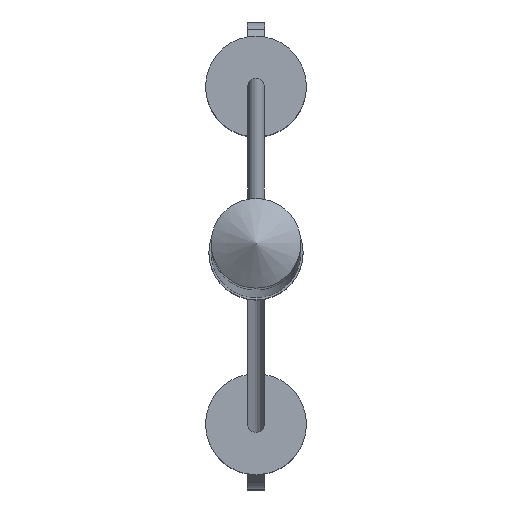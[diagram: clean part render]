
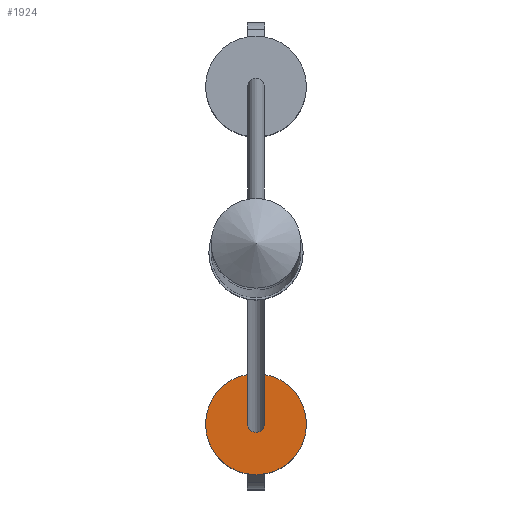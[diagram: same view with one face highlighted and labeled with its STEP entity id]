
A CAD part, top view. The second image highlights one B-rep face of the part: STEP entity #1924.
In plain terms, the highlighted planar face has unit normal (0, 0, 1).
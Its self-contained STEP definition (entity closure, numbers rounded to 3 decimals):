
#10 = AXIS2_PLACEMENT_3D ( 'NONE', #360, #241, #1871 ) ;
#45 = DIRECTION ( 'NONE',  ( -1., 0., 0. ) ) ;
#72 = FACE_OUTER_BOUND ( 'NONE', #1235, .T. ) ;
#241 = DIRECTION ( 'NONE',  ( 0., 0., 1. ) ) ;
#265 = CARTESIAN_POINT ( 'NONE',  ( 0., -14.612, -250.133 ) ) ;
#334 = ORIENTED_EDGE ( 'NONE', *, *, #1675, .T. ) ;
#360 = CARTESIAN_POINT ( 'NONE',  ( 0., -14.612, -250.133 ) ) ;
#471 = AXIS2_PLACEMENT_3D ( 'NONE', #265, #867, #1050 ) ;
#497 = AXIS2_PLACEMENT_3D ( 'NONE', #1572, #1105, #45 ) ;
#561 = CIRCLE ( 'NONE', #471, 2.25 ) ;
#807 = EDGE_CURVE ( 'NONE', #1743, #1743, #1350, .T. ) ;
#815 = VERTEX_POINT ( 'NONE', #1721 ) ;
#867 = DIRECTION ( 'NONE',  ( 0., 0., 1. ) ) ;
#1050 = DIRECTION ( 'NONE',  ( 1., 0., 0. ) ) ;
#1105 = DIRECTION ( 'NONE',  ( 0., 0., 1. ) ) ;
#1128 = CARTESIAN_POINT ( 'NONE',  ( -0.375, -14.612, -250.133 ) ) ;
#1235 = EDGE_LOOP ( 'NONE', ( #334 ) ) ;
#1259 = PLANE ( 'NONE',  #10 ) ;
#1350 = CIRCLE ( 'NONE', #497, 0.375 ) ;
#1433 = FACE_BOUND ( 'NONE', #1549, .T. ) ;
#1549 = EDGE_LOOP ( 'NONE', ( #1858 ) ) ;
#1572 = CARTESIAN_POINT ( 'NONE',  ( 0., -14.612, -250.133 ) ) ;
#1675 = EDGE_CURVE ( 'NONE', #815, #815, #561, .T. ) ;
#1721 = CARTESIAN_POINT ( 'NONE',  ( 2.25, -14.612, -250.133 ) ) ;
#1743 = VERTEX_POINT ( 'NONE', #1128 ) ;
#1858 = ORIENTED_EDGE ( 'NONE', *, *, #807, .F. ) ;
#1871 = DIRECTION ( 'NONE',  ( 1., 0., 0. ) ) ;
#1924 = ADVANCED_FACE ( 'NONE', ( #1433, #72 ), #1259, .T. ) ;
